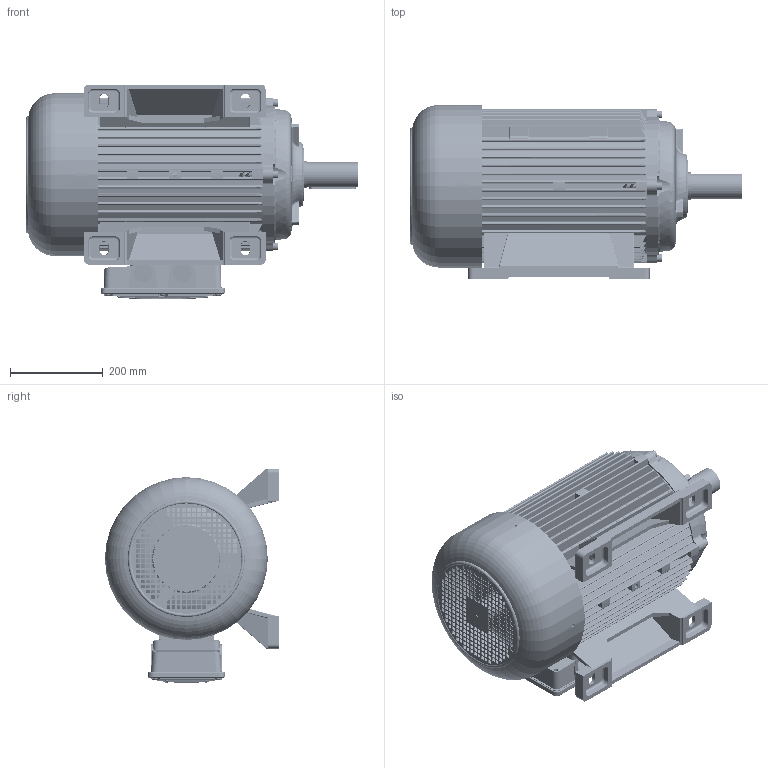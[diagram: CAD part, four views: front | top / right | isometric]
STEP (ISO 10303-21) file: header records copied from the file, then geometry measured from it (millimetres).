
FILE_DESCRIPTION (( 'STEP AP214' ), '1' );
FILE_NAME ('M24NA0010.STEP', '2019-10-14T10:18:23', ( '' ), ( '' ), 'SwSTEP 2.0', 'SolidWorks 2018', '' );
FILE_SCHEMA (( 'AUTOMOTIVE_DESIGN' ));
Length unit declared in the file: millimetre
Products named in the file (14): Chiavetta 200-225 2p; Albero SM 200 L; Scudo Lato Comando B3 BA-CF 200 - D7A40099; Carcassa 200 B3; M24NA0010; Vite a Brugola M10x75; Cuffia SM 180-200; Scudo Lato Comando B3 BA 180; Scatola Morsettiera Doppia BA 160 - 180 - 200 - Completa; Guarnizione Basetta BA 160-180 - 200 - D6BB0000; Vite Testa Bombata M6x20; Guarnizione Coperchio Sc. Mor. BA 160-180-200 - D6BA0100; Coperchio Scatola Morsettiera Doppia BA 160 - 180 - 200 - D6A60099; Scatola Morsettiera Doppia BA 160 - 180 - 200 - D6A70299
Assembly tree (21 placements, depth 3):
  M24NA0010
    Carcassa 200 B3
    Scudo Lato Comando B3 BA-CF 200 - D7A40099
    Albero SM 200 L
    Chiavetta 200-225 2p
    Scatola Morsettiera Doppia BA 160 - 180 - 200 - Completa
      Scatola Morsettiera Doppia BA 160 - 180 - 200 - D6A70299
      Coperchio Scatola Morsettiera Doppia BA 160 - 180 - 200 - D6A60099
      Guarnizione Coperchio Sc. Mor. BA 160-180-200 - D6BA0100
      Vite Testa Bombata M6x20  x6
      Guarnizione Basetta BA 160-180 - 200 - D6BB0000
    Scudo Lato Comando B3 BA 180
    Cuffia SM 180-200
    Vite a Brugola M10x75  x4
Bounding box: 716.49 x 375.5 x 463.74 mm (x, y, z)
Volume: 13231256 mm3; surface area: 3124205.3 mm2
Topology: 20 solids, 20 shells, 4930 faces, 13352 edges, 8346 vertices
Faces by surface type: plane 2048, cylinder 1654, bspline 569, torus 386, sphere 150, cone 123
Entity records: 168759 total; most frequent: CARTESIAN_POINT 62976, ORIENTED_EDGE 22708, DIRECTION 20329, EDGE_CURVE 11354, VERTEX_POINT 7145, AXIS2_PLACEMENT_3D 6858, VECTOR 6613, LINE 6613
